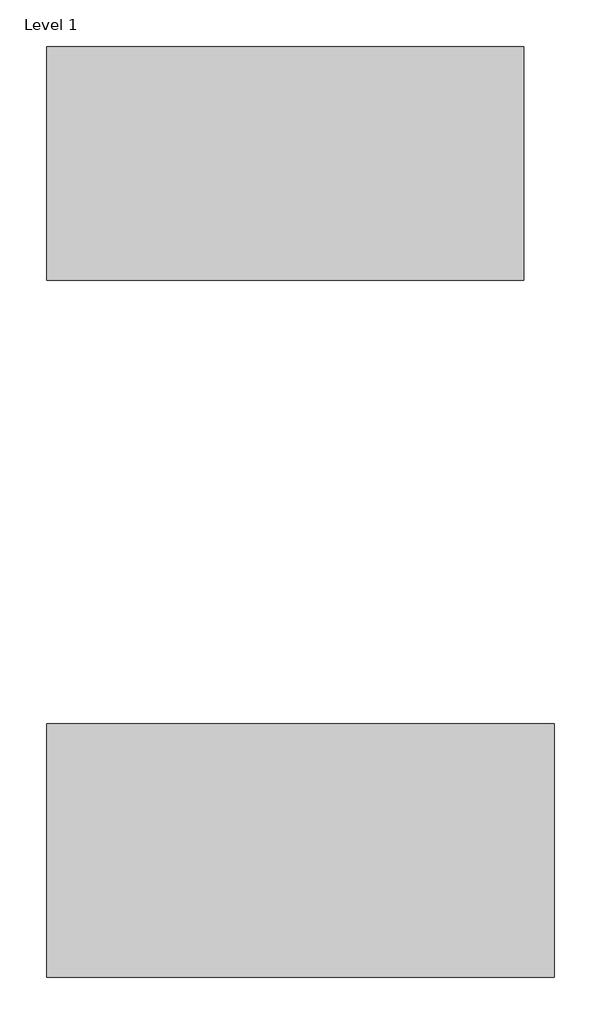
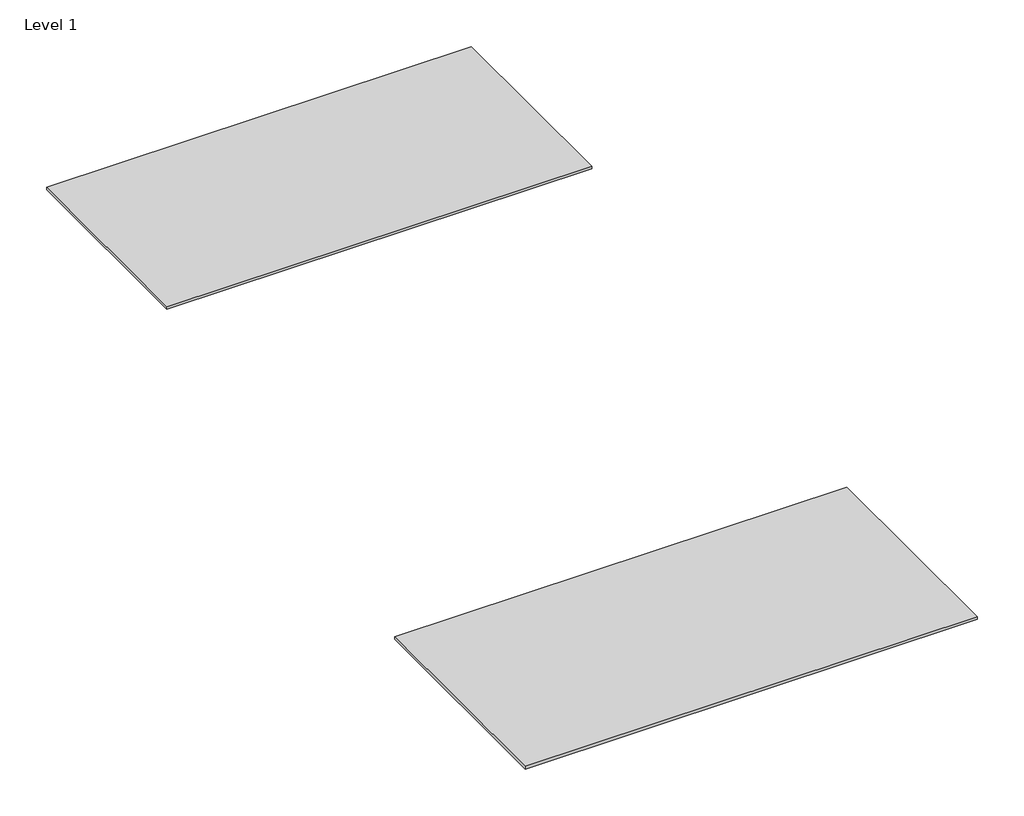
# One storey: 2 furniture elements.
"""IFC4 building model written with IfcOpenShell, lengths in millimetres."""

from ifc_helpers import new_model, si_unit, origin, place, context, project, spatial, transform, mapped, element, save
from components import furniture_ea33b4cf, furniture_22a8cda6

model = new_model("IFC4")

# Units and contexts
model_context = context("Model", 3, world=origin())
ifc_project = project(units=[si_unit("LENGTHUNIT", "METRE", prefix="MILLI")], contexts=[model_context])

# Site, building, storey
site = spatial("IfcSite", under=ifc_project)
building = spatial("IfcBuilding", under=site)
storey = spatial("IfcBuildingStorey", under=building, Name="Level 1", Elevation=0.0)

# Furniture
placement = place(None, origin())
furniture_shape = furniture_ea33b4cf(model_context)
element("IfcFurniture", 1, ObjectType="BELENCO_MarquinaLavagna_9719_165cmx330cm : BELENCO_Marquina Lavagna_9719_165cm*330cm", at=placement, inside=storey, context=model_context, shape_type="MappedRepresentation", body=[
    mapped(furniture_shape, transform((-1401.0450676, 1363.7754875, 0.0), x_axis=(1.0, 0.0, 0.0), y_axis=(0.0, 1.0, 0.0), z_axis=(0.0, 0.0, 1.0))),
])
furniture_2_shape = furniture_22a8cda6(model_context)
element("IfcFurniture", 2, ObjectType="BELENCO_MarquinaLavagna_9719_152cmx310cm : BELENCO_Marquina_Lavagna_9719_152cm*310cm", at=placement, inside=storey, context=model_context, shape_type="MappedRepresentation", body=[
    mapped(furniture_2_shape, transform((-1501.0450676, 5828.4610085, 800.0), x_axis=(1.0, 0.0, 0.0), y_axis=(0.0, 1.0, 0.0), z_axis=(0.0, 0.0, 1.0))),
])

save(model, "model.ifc")
